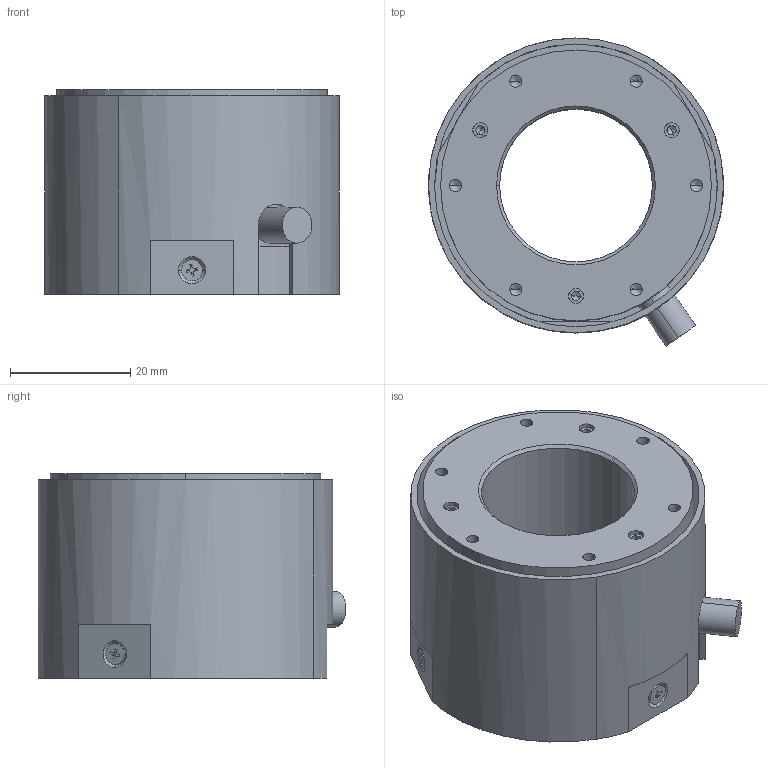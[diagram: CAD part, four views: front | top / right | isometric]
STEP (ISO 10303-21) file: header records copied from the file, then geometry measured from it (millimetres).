
FILE_DESCRIPTION (( 'STEP AP214' ), '1' );
FILE_NAME ('S23.ZT0S25俋倛-25.02.05.STEP', '2025-02-05T02:55:53', ( '' ), ( '' ), 'SwSTEP 2.0', 'SolidWorks 2016', '' );
FILE_SCHEMA (( 'AUTOMOTIVE_DESIGN' ));
Length unit declared in the file: millimetre
Products named in the file (1): S23.ZT0S25俋倛-25.02.05
Bounding box: 49 x 51.15 x 34 mm (x, y, z)
Volume: 42666 mm3; surface area: 21163.4 mm2
Topology: 8 solids, 8 shells, 278 faces, 683 edges, 406 vertices
Faces by surface type: plane 115, cylinder 87, cone 76
Entity records: 11130 total; most frequent: CARTESIAN_POINT 1458, DIRECTION 1446, ORIENTED_EDGE 1282, EDGE_CURVE 641, AXIS2_PLACEMENT_3D 530, VERTEX_POINT 406, VECTOR 386, LINE 386
